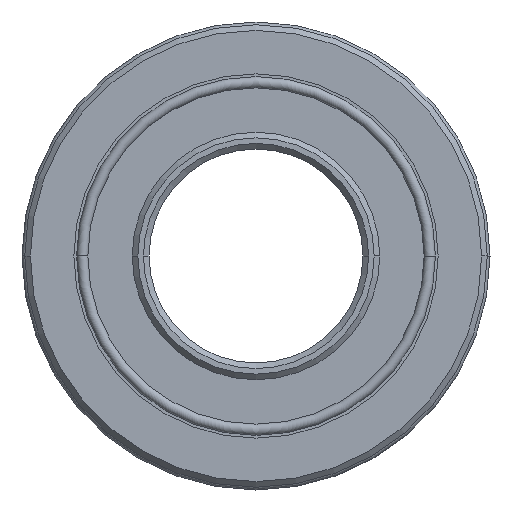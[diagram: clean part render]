
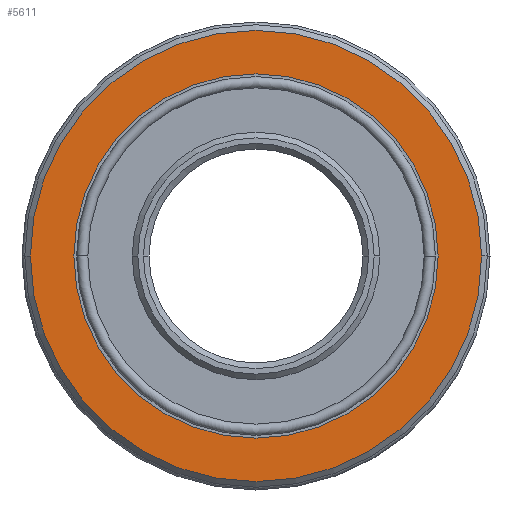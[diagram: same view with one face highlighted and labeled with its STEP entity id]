
A CAD part, left-side view. The second image highlights one B-rep face of the part: STEP entity #5611.
In plain terms, the highlighted planar face has unit normal (-1, 0, 0).
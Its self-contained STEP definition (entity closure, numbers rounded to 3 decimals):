
#550 = EDGE_CURVE ( 'NONE', #554, #573, #15096, .T. ) ;
#554 = VERTEX_POINT ( 'NONE', #15085 ) ;
#573 = VERTEX_POINT ( 'NONE', #15177 ) ;
#3239 = VERTEX_POINT ( 'NONE', #21326 ) ;
#3302 = VERTEX_POINT ( 'NONE', #21393 ) ;
#3306 = EDGE_CURVE ( 'NONE', #3239, #3302, #21391, .T. ) ;
#5611 = ADVANCED_FACE ( 'NONE', ( #24558, #24557 ), #24556, .T. ) ;
#5613 = EDGE_LOOP ( 'NONE', ( #5614, #5731 ) ) ;
#5614 = ORIENTED_EDGE ( 'NONE', *, *, #5615, .T. ) ;
#5615 = EDGE_CURVE ( 'NONE', #3302, #3239, #24551, .T. ) ;
#5731 = ORIENTED_EDGE ( 'NONE', *, *, #3306, .T. ) ;
#5734 = EDGE_LOOP ( 'NONE', ( #5736, #5739 ) ) ;
#5736 = ORIENTED_EDGE ( 'NONE', *, *, #5738, .F. ) ;
#5738 = EDGE_CURVE ( 'NONE', #573, #554, #24719, .T. ) ;
#5739 = ORIENTED_EDGE ( 'NONE', *, *, #550, .F. ) ;
#15085 = CARTESIAN_POINT ( 'NONE',  ( 0., 32.5, 0. ) ) ;
#15089 = DIRECTION ( 'NONE',  ( 0., -1., 0. ) ) ;
#15091 = DIRECTION ( 'NONE',  ( -1., 0., 0. ) ) ;
#15093 = CARTESIAN_POINT ( 'NONE',  ( 0., 0., 0. ) ) ;
#15095 = AXIS2_PLACEMENT_3D ( 'NONE', #15093, #15091, #15089 ) ;
#15096 = CIRCLE ( 'NONE', #15095, 32.5 ) ;
#15177 = CARTESIAN_POINT ( 'NONE',  ( 0., -32.5, 0. ) ) ;
#21326 = CARTESIAN_POINT ( 'NONE',  ( 0., -40.25, 0. ) ) ;
#21387 = DIRECTION ( 'NONE',  ( 0., -1., 0. ) ) ;
#21388 = DIRECTION ( 'NONE',  ( -1., 0., 0. ) ) ;
#21389 = CARTESIAN_POINT ( 'NONE',  ( 0., 0., 0. ) ) ;
#21390 = AXIS2_PLACEMENT_3D ( 'NONE', #21389, #21388, #21387 ) ;
#21391 = CIRCLE ( 'NONE', #21390, 40.25 ) ;
#21393 = CARTESIAN_POINT ( 'NONE',  ( 0., 40.25, 0. ) ) ;
#24547 = DIRECTION ( 'NONE',  ( 0., -1., 0. ) ) ;
#24548 = DIRECTION ( 'NONE',  ( -1., 0., 0. ) ) ;
#24549 = CARTESIAN_POINT ( 'NONE',  ( 0., 0., 0. ) ) ;
#24550 = AXIS2_PLACEMENT_3D ( 'NONE', #24549, #24548, #24547 ) ;
#24551 = CIRCLE ( 'NONE', #24550, 40.25 ) ;
#24552 = DIRECTION ( 'NONE',  ( 0., -1., 0. ) ) ;
#24553 = DIRECTION ( 'NONE',  ( -1., 0., 0. ) ) ;
#24554 = CARTESIAN_POINT ( 'NONE',  ( 0., 0., 0. ) ) ;
#24555 = AXIS2_PLACEMENT_3D ( 'NONE', #24554, #24553, #24552 ) ;
#24556 = PLANE ( 'NONE',  #24555 ) ;
#24557 = FACE_BOUND ( 'NONE', #5734, .T. ) ;
#24558 = FACE_OUTER_BOUND ( 'NONE', #5613, .T. ) ;
#24715 = DIRECTION ( 'NONE',  ( 0., -1., 0. ) ) ;
#24716 = DIRECTION ( 'NONE',  ( -1., 0., 0. ) ) ;
#24717 = CARTESIAN_POINT ( 'NONE',  ( 0., 0., 0. ) ) ;
#24718 = AXIS2_PLACEMENT_3D ( 'NONE', #24717, #24716, #24715 ) ;
#24719 = CIRCLE ( 'NONE', #24718, 32.5 ) ;
